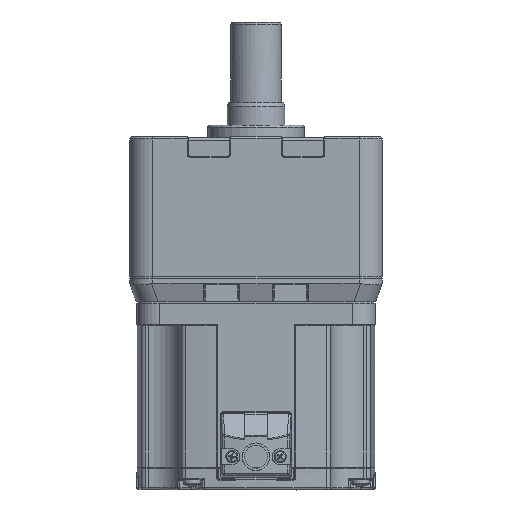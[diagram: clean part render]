
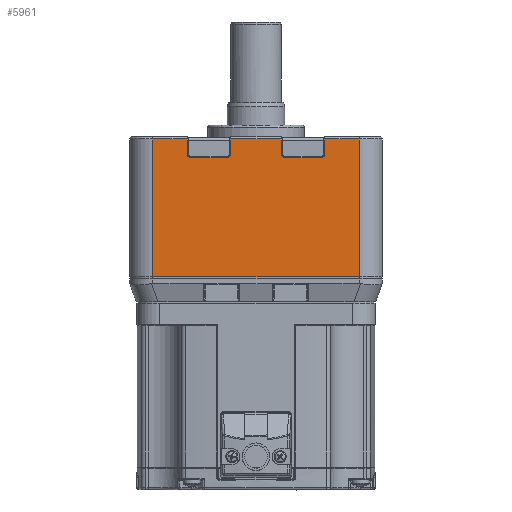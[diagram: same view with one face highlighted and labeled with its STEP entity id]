
A CAD part, front view. The second image highlights one B-rep face of the part: STEP entity #5961.
In plain terms, the highlighted planar face has unit normal (0, -1, 0).
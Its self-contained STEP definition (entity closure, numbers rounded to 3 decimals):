
#1315=CARTESIAN_POINT('',(-23.5,-3.,98.772));
#1316=VERTEX_POINT('',#1315);
#1334=CARTESIAN_POINT('',(-39.5,-3.,98.772));
#1335=VERTEX_POINT('',#1334);
#1343=CARTESIAN_POINT('',(-39.5,-3.,98.772));
#1344=DIRECTION('',(1.0,0.0,0.0));
#1345=VECTOR('',#1344,16.);
#1346=LINE('',#1343,#1345);
#1347=EDGE_CURVE('',#1335,#1316,#1346,.T.);
#1359=CARTESIAN_POINT('',(-41.,-3.,100.272));
#1360=VERTEX_POINT('',#1359);
#1368=CARTESIAN_POINT('',(-39.5,-3.,100.272));
#1369=DIRECTION('',(0.,-1.,0.));
#1370=DIRECTION('',(-0.707,0.,-0.707));
#1371=AXIS2_PLACEMENT_3D('',#1368,#1369,#1370);
#1372=CIRCLE('',#1371,1.5);
#1373=EDGE_CURVE('',#1360,#1335,#1372,.T.);
#1393=CARTESIAN_POINT('',(-41.,-3.,106.772));
#1394=VERTEX_POINT('',#1393);
#1402=CARTESIAN_POINT('',(-41.,-3.,106.772));
#1403=DIRECTION('',(0.0,0.0,-1.0));
#1404=VECTOR('',#1403,6.5);
#1405=LINE('',#1402,#1404);
#1406=EDGE_CURVE('',#1394,#1360,#1405,.T.);
#1697=CARTESIAN_POINT('',(-63.,-3.,106.772));
#1698=VERTEX_POINT('',#1697);
#1731=CARTESIAN_POINT('',(-63.,-3.,100.272));
#1732=VERTEX_POINT('',#1731);
#1740=CARTESIAN_POINT('',(-63.,-3.,100.272));
#1741=DIRECTION('',(0.0,0.0,1.0));
#1742=VECTOR('',#1741,6.5);
#1743=LINE('',#1740,#1742);
#1744=EDGE_CURVE('',#1732,#1698,#1743,.T.);
#1763=CARTESIAN_POINT('',(-64.5,-3.,98.772));
#1764=VERTEX_POINT('',#1763);
#1772=CARTESIAN_POINT('',(-64.5,-3.,100.272));
#1773=DIRECTION('',(0.,-1.,0.));
#1774=DIRECTION('',(0.707,0.,-0.707));
#1775=AXIS2_PLACEMENT_3D('',#1772,#1773,#1774);
#1776=CIRCLE('',#1775,1.5);
#1777=EDGE_CURVE('',#1764,#1732,#1776,.T.);
#1797=CARTESIAN_POINT('',(-80.5,-3.,98.772));
#1798=VERTEX_POINT('',#1797);
#1806=CARTESIAN_POINT('',(-80.5,-3.,98.772));
#1807=DIRECTION('',(1.0,0.0,0.0));
#1808=VECTOR('',#1807,16.0);
#1809=LINE('',#1806,#1808);
#1810=EDGE_CURVE('',#1798,#1764,#1809,.T.);
#1829=CARTESIAN_POINT('',(-82.,-3.,100.272));
#1830=VERTEX_POINT('',#1829);
#1838=CARTESIAN_POINT('',(-80.5,-3.,100.272));
#1839=DIRECTION('',(0.,-1.,0.));
#1840=DIRECTION('',(-0.707,0.,-0.707));
#1841=AXIS2_PLACEMENT_3D('',#1838,#1839,#1840);
#1842=CIRCLE('',#1841,1.5);
#1843=EDGE_CURVE('',#1830,#1798,#1842,.T.);
#1863=CARTESIAN_POINT('',(-82.,-3.,106.772));
#1864=VERTEX_POINT('',#1863);
#1872=CARTESIAN_POINT('',(-82.,-3.,106.772));
#1873=DIRECTION('',(0.0,0.0,-1.0));
#1874=VECTOR('',#1873,6.5);
#1875=LINE('',#1872,#1874);
#1876=EDGE_CURVE('',#1864,#1830,#1875,.T.);
#4573=CARTESIAN_POINT('',(-22.,-3.,106.772));
#4574=VERTEX_POINT('',#4573);
#4607=CARTESIAN_POINT('',(-22.,-3.,100.272));
#4608=VERTEX_POINT('',#4607);
#4616=CARTESIAN_POINT('',(-22.,-3.,100.272));
#4617=DIRECTION('',(0.0,0.0,1.0));
#4618=VECTOR('',#4617,6.5);
#4619=LINE('',#4616,#4618);
#4620=EDGE_CURVE('',#4608,#4574,#4619,.T.);
#4646=CARTESIAN_POINT('',(-23.5,-3.,100.272));
#4647=DIRECTION('',(0.,-1.,0.));
#4648=DIRECTION('',(0.707,0.,-0.707));
#4649=AXIS2_PLACEMENT_3D('',#4646,#4647,#4648);
#4650=CIRCLE('',#4649,1.5);
#4651=EDGE_CURVE('',#1316,#4608,#4650,.T.);
#5374=CARTESIAN_POINT('',(-7.,-3.,106.772));
#5375=VERTEX_POINT('',#5374);
#5376=CARTESIAN_POINT('',(-22.,-3.,106.772));
#5377=DIRECTION('',(1.0,0.0,0.0));
#5378=VECTOR('',#5377,15.);
#5379=LINE('',#5376,#5378);
#5380=EDGE_CURVE('',#4574,#5375,#5379,.T.);
#5907=CARTESIAN_POINT('',(-107.,-3.,46.772));
#5908=DIRECTION('',(0.0,-1.0,0.0));
#5909=DIRECTION('',(0.0,0.0,1.0));
#5910=AXIS2_PLACEMENT_3D('',#5907,#5908,#5909);
#5911=PLANE('',#5910);
#5912=ORIENTED_EDGE('',*,*,#1876,.F.);
#5913=CARTESIAN_POINT('',(-97.,-3.,106.772));
#5914=VERTEX_POINT('',#5913);
#5915=CARTESIAN_POINT('',(-97.,-3.,106.772));
#5916=DIRECTION('',(1.0,0.0,0.0));
#5917=VECTOR('',#5916,15.);
#5918=LINE('',#5915,#5917);
#5919=EDGE_CURVE('',#5914,#1864,#5918,.T.);
#5920=ORIENTED_EDGE('',*,*,#5919,.F.);
#5921=CARTESIAN_POINT('',(-97.,-3.,46.772));
#5922=VERTEX_POINT('',#5921);
#5923=CARTESIAN_POINT('',(-97.,-3.,46.772));
#5924=DIRECTION('',(0.0,0.0,1.0));
#5925=VECTOR('',#5924,60.);
#5926=LINE('',#5923,#5925);
#5927=EDGE_CURVE('',#5922,#5914,#5926,.T.);
#5928=ORIENTED_EDGE('',*,*,#5927,.F.);
#5929=CARTESIAN_POINT('',(-7.,-3.,46.772));
#5930=VERTEX_POINT('',#5929);
#5931=CARTESIAN_POINT('',(-97.,-3.,46.772));
#5932=DIRECTION('',(1.0,0.0,0.0));
#5933=VECTOR('',#5932,90.);
#5934=LINE('',#5931,#5933);
#5935=EDGE_CURVE('',#5922,#5930,#5934,.T.);
#5936=ORIENTED_EDGE('',*,*,#5935,.T.);
#5937=CARTESIAN_POINT('',(-7.,-3.,106.772));
#5938=DIRECTION('',(0.0,0.0,-1.0));
#5939=VECTOR('',#5938,60.);
#5940=LINE('',#5937,#5939);
#5941=EDGE_CURVE('',#5375,#5930,#5940,.T.);
#5942=ORIENTED_EDGE('',*,*,#5941,.F.);
#5943=ORIENTED_EDGE('',*,*,#5380,.F.);
#5944=ORIENTED_EDGE('',*,*,#4620,.F.);
#5945=ORIENTED_EDGE('',*,*,#4651,.F.);
#5946=ORIENTED_EDGE('',*,*,#1347,.F.);
#5947=ORIENTED_EDGE('',*,*,#1373,.F.);
#5948=ORIENTED_EDGE('',*,*,#1406,.F.);
#5949=CARTESIAN_POINT('',(-63.,-3.,106.772));
#5950=DIRECTION('',(1.0,0.0,0.0));
#5951=VECTOR('',#5950,22.);
#5952=LINE('',#5949,#5951);
#5953=EDGE_CURVE('',#1698,#1394,#5952,.T.);
#5954=ORIENTED_EDGE('',*,*,#5953,.F.);
#5955=ORIENTED_EDGE('',*,*,#1744,.F.);
#5956=ORIENTED_EDGE('',*,*,#1777,.F.);
#5957=ORIENTED_EDGE('',*,*,#1810,.F.);
#5958=ORIENTED_EDGE('',*,*,#1843,.F.);
#5959=EDGE_LOOP('',(#5912,#5920,#5928,#5936,#5942,#5943,#5944,#5945,#5946,#5947,#5948,#5954,#5955,#5956,#5957,#5958));
#5960=FACE_OUTER_BOUND('',#5959,.T.);
#5961=ADVANCED_FACE('',(#5960),#5911,.T.);
